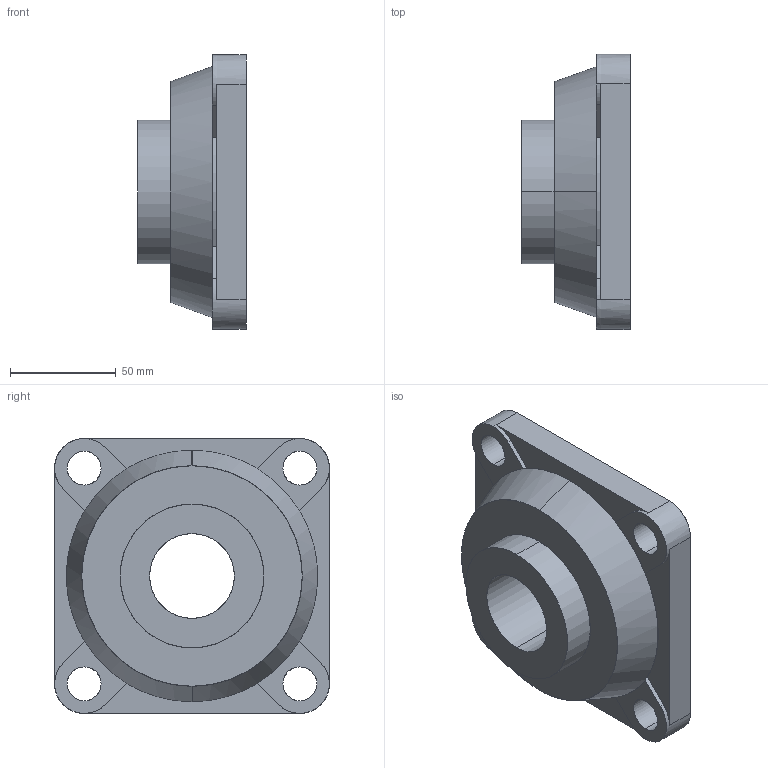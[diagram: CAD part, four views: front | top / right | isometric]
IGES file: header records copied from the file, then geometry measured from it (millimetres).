
Start section: SolidWorks IGES file using analytic representation for surfaces
Global section: file name: C:\Users\Honza\Desktop\Matis\Ložisková tìlesa\UCF\UCF 208.IGS; native system: SolidWorks 2010; preprocessor: SolidWorks 2010; author: Honza; date: 130920.100031; units: millimetre
Bounding box: 51.2 x 130 x 130 mm (x, y, z)
Surface area: 58673.6 mm2 (no closed solid volume)
Topology: 0 solids, 0 shells, 51 faces, 1102 edges, 1102 vertices
Faces by surface type: bspline 27, revolution 24
